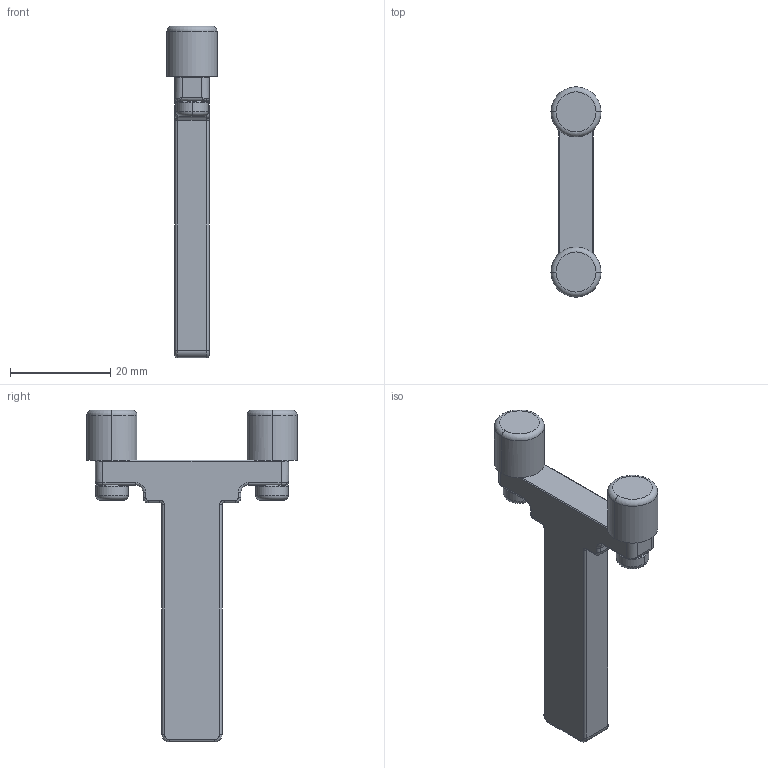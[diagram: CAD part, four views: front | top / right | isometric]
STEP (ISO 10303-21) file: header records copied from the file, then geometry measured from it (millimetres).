
FILE_DESCRIPTION (( 'STEP AP203' ), '1' );
FILE_NAME ('TB01016.STEP', '2021-03-16T02:00:14', ( 'Users' ), ( 'Microsoft' ), 'SwSTEP 2.0', 'SolidWorks 2018', '' );
FILE_SCHEMA (( 'CONFIG_CONTROL_DESIGN' ));
Length unit declared in the file: millimetre
Products named in the file (1): TB01016
Bounding box: 10 x 42 x 66.3 mm (x, y, z)
Volume: 7367.5 mm3; surface area: 3736.4 mm2
Topology: 1 solids, 1 shells, 178 faces, 458 edges, 278 vertices
Faces by surface type: plane 86, cylinder 44, torus 36, bspline 12
Entity records: 5797 total; most frequent: CARTESIAN_POINT 1619, ORIENTED_EDGE 908, DIRECTION 830, EDGE_CURVE 454, AXIS2_PLACEMENT_3D 333, VERTEX_POINT 278, FACE_OUTER_BOUND 178, ADVANCED_FACE 178
